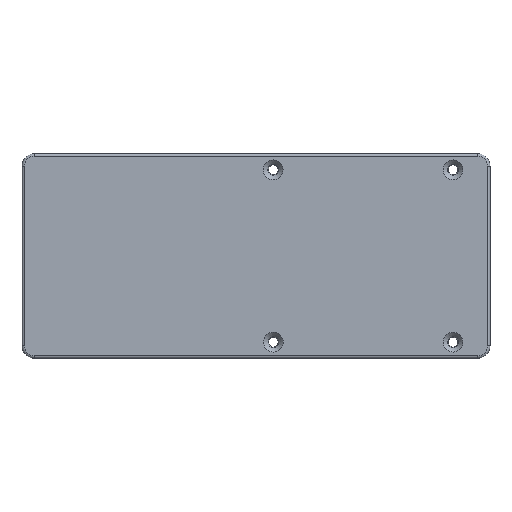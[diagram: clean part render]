
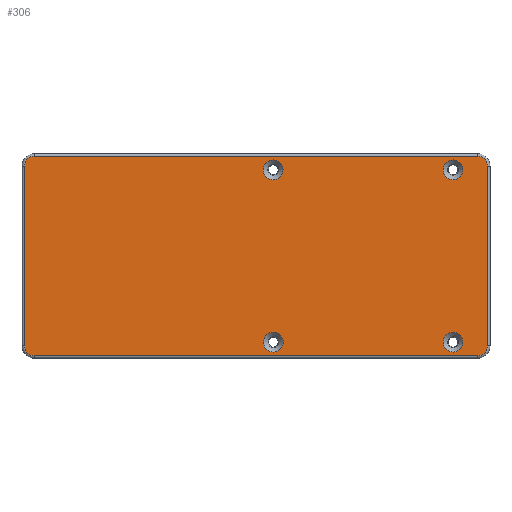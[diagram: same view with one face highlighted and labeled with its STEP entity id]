
A CAD part, top view. The second image highlights one B-rep face of the part: STEP entity #306.
In plain terms, the highlighted planar face has unit normal (0, 0, 1).
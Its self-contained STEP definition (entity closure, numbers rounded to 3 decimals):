
#187=CARTESIAN_POINT('',(207.,0.,3.));
#188=DIRECTION('',(0.,0.,1.));
#189=DIRECTION('',(1.,0.,0.));
#190=AXIS2_PLACEMENT_3D('',#187,#188,#189);
#191=PLANE('',#190);
#192=CARTESIAN_POINT('',(208.,265.01,3.));
#193=VERTEX_POINT('',#192);
#194=CARTESIAN_POINT('',(208.,192.01,3.));
#195=VERTEX_POINT('',#194);
#196=CARTESIAN_POINT('',(208.,265.01,3.));
#197=DIRECTION('',(0.,-1.,-0.));
#198=VECTOR('',#197,73.);
#199=LINE('',#196,#198);
#200=EDGE_CURVE('',#193,#195,#199,.T.);
#201=ORIENTED_EDGE('',*,*,#200,.T.);
#202=CARTESIAN_POINT('',(212.,188.01,3.));
#203=VERTEX_POINT('',#202);
#204=CARTESIAN_POINT('',(212.,192.01,3.));
#205=DIRECTION('',(0.,0.,1.));
#206=DIRECTION('',(1.,0.,-0.));
#207=AXIS2_PLACEMENT_3D('',#204,#205,#206);
#208=CIRCLE('',#207,4.);
#209=EDGE_CURVE('',#195,#203,#208,.T.);
#210=ORIENTED_EDGE('',*,*,#209,.T.);
#211=CARTESIAN_POINT('',(392.,188.01,3.));
#212=VERTEX_POINT('',#211);
#213=CARTESIAN_POINT('',(212.,188.01,3.));
#214=DIRECTION('',(1.,-0.,-0.));
#215=VECTOR('',#214,180.);
#216=LINE('',#213,#215);
#217=EDGE_CURVE('',#203,#212,#216,.T.);
#218=ORIENTED_EDGE('',*,*,#217,.T.);
#219=CARTESIAN_POINT('',(396.,192.01,3.));
#220=VERTEX_POINT('',#219);
#221=CARTESIAN_POINT('',(392.,192.01,3.));
#222=DIRECTION('',(0.,0.,1.));
#223=DIRECTION('',(1.,0.,-0.));
#224=AXIS2_PLACEMENT_3D('',#221,#222,#223);
#225=CIRCLE('',#224,4.);
#226=EDGE_CURVE('',#212,#220,#225,.T.);
#227=ORIENTED_EDGE('',*,*,#226,.T.);
#228=CARTESIAN_POINT('',(396.,265.01,3.));
#229=VERTEX_POINT('',#228);
#230=CARTESIAN_POINT('',(396.,192.01,3.));
#231=DIRECTION('',(-0.,1.,-0.));
#232=VECTOR('',#231,73.);
#233=LINE('',#230,#232);
#234=EDGE_CURVE('',#220,#229,#233,.T.);
#235=ORIENTED_EDGE('',*,*,#234,.T.);
#236=CARTESIAN_POINT('',(392.,269.01,3.));
#237=VERTEX_POINT('',#236);
#238=CARTESIAN_POINT('',(392.,265.01,3.));
#239=DIRECTION('',(0.,0.,1.));
#240=DIRECTION('',(1.,0.,-0.));
#241=AXIS2_PLACEMENT_3D('',#238,#239,#240);
#242=CIRCLE('',#241,4.);
#243=EDGE_CURVE('',#229,#237,#242,.T.);
#244=ORIENTED_EDGE('',*,*,#243,.T.);
#245=CARTESIAN_POINT('',(212.,269.01,3.));
#246=VERTEX_POINT('',#245);
#247=CARTESIAN_POINT('',(392.,269.01,3.));
#248=DIRECTION('',(-1.,-0.,0.));
#249=VECTOR('',#248,180.);
#250=LINE('',#247,#249);
#251=EDGE_CURVE('',#237,#246,#250,.T.);
#252=ORIENTED_EDGE('',*,*,#251,.T.);
#253=CARTESIAN_POINT('',(212.,265.01,3.));
#254=DIRECTION('',(0.,0.,1.));
#255=DIRECTION('',(1.,0.,-0.));
#256=AXIS2_PLACEMENT_3D('',#253,#254,#255);
#257=CIRCLE('',#256,4.);
#258=EDGE_CURVE('',#246,#193,#257,.T.);
#259=ORIENTED_EDGE('',*,*,#258,.T.);
#260=EDGE_LOOP('',(#201,#210,#218,#227,#235,#244,#252,#259));
#261=FACE_BOUND('',#260,.T.);
#262=CARTESIAN_POINT('',(313.,263.5,3.));
#263=VERTEX_POINT('',#262);
#264=CARTESIAN_POINT('',(309.,263.5,3.));
#265=DIRECTION('',(-0.,-0.,-1.));
#266=DIRECTION('',(1.,0.,-0.));
#267=AXIS2_PLACEMENT_3D('',#264,#265,#266);
#268=CIRCLE('',#267,4.);
#269=EDGE_CURVE('',#263,#263,#268,.T.);
#270=ORIENTED_EDGE('',*,*,#269,.T.);
#271=EDGE_LOOP('',(#270));
#272=FACE_BOUND('',#271,.T.);
#273=CARTESIAN_POINT('',(313.028,193.51,3.));
#274=VERTEX_POINT('',#273);
#275=CARTESIAN_POINT('',(309.028,193.51,3.));
#276=DIRECTION('',(-0.,-0.,-1.));
#277=DIRECTION('',(1.,0.,-0.));
#278=AXIS2_PLACEMENT_3D('',#275,#276,#277);
#279=CIRCLE('',#278,4.);
#280=EDGE_CURVE('',#274,#274,#279,.T.);
#281=ORIENTED_EDGE('',*,*,#280,.T.);
#282=EDGE_LOOP('',(#281));
#283=FACE_BOUND('',#282,.T.);
#284=CARTESIAN_POINT('',(386.,193.5,3.));
#285=VERTEX_POINT('',#284);
#286=CARTESIAN_POINT('',(382.,193.5,3.));
#287=DIRECTION('',(-0.,-0.,-1.));
#288=DIRECTION('',(1.,0.,-0.));
#289=AXIS2_PLACEMENT_3D('',#286,#287,#288);
#290=CIRCLE('',#289,4.);
#291=EDGE_CURVE('',#285,#285,#290,.T.);
#292=ORIENTED_EDGE('',*,*,#291,.T.);
#293=EDGE_LOOP('',(#292));
#294=FACE_BOUND('',#293,.T.);
#295=CARTESIAN_POINT('',(386.,263.5,3.));
#296=VERTEX_POINT('',#295);
#297=CARTESIAN_POINT('',(382.,263.5,3.));
#298=DIRECTION('',(-0.,-0.,-1.));
#299=DIRECTION('',(1.,0.,-0.));
#300=AXIS2_PLACEMENT_3D('',#297,#298,#299);
#301=CIRCLE('',#300,4.);
#302=EDGE_CURVE('',#296,#296,#301,.T.);
#303=ORIENTED_EDGE('',*,*,#302,.T.);
#304=EDGE_LOOP('',(#303));
#305=FACE_BOUND('',#304,.T.);
#306=ADVANCED_FACE('',(#261,#272,#283,#294,#305),#191,.T.);
